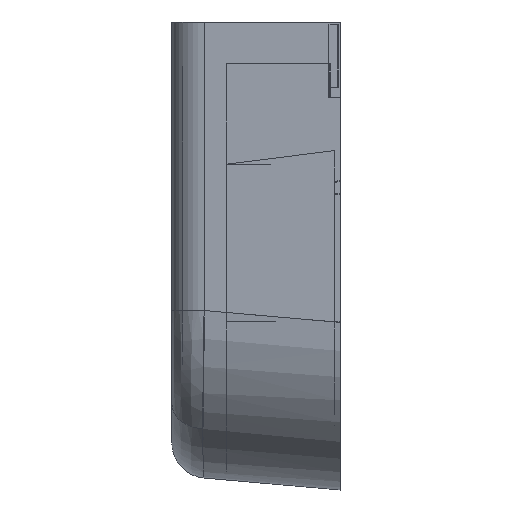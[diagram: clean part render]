
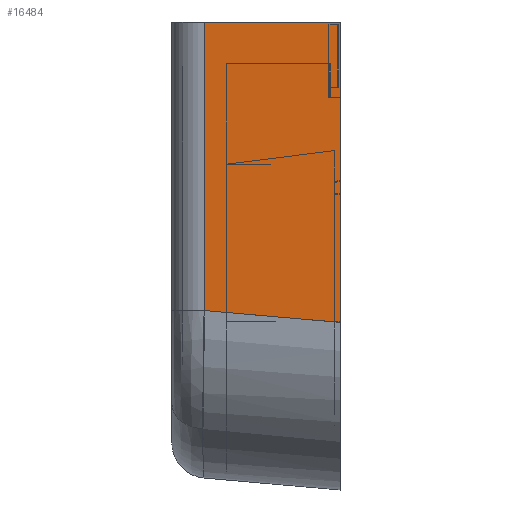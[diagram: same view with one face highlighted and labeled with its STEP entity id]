
A CAD part, left-side view. The second image highlights one B-rep face of the part: STEP entity #16484.
In plain terms, the highlighted planar face has unit normal (-0.996, 0.087, 0).
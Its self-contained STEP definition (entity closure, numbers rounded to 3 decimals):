
#336 = LINE ( 'NONE', #525, #16951 ) ;
#525 = CARTESIAN_POINT ( 'NONE',  ( -0.466, -5.322, -128.702 ) ) ;
#2823 = EDGE_CURVE ( 'NONE', #18818, #33845, #23852, .T. ) ;
#3293 = AXIS2_PLACEMENT_3D ( 'NONE', #14347, #5798, #25487 ) ;
#4161 = CARTESIAN_POINT ( 'NONE',  ( 0., 0., -190. ) ) ;
#4388 = ORIENTED_EDGE ( 'NONE', *, *, #15562, .T. ) ;
#5798 = DIRECTION ( 'NONE',  ( -0.996, 0.087, 0. ) ) ;
#8358 = PLANE ( 'NONE',  #3293 ) ;
#8461 = ORIENTED_EDGE ( 'NONE', *, *, #10285, .T. ) ;
#9256 = DIRECTION ( 'NONE',  ( 0., 0., 1. ) ) ;
#9306 = DIRECTION ( 'NONE',  ( 0.087, 0.996, 0. ) ) ;
#9990 = DIRECTION ( 'NONE',  ( 0., 0., -1. ) ) ;
#10285 = EDGE_CURVE ( 'NONE', #35623, #18818, #18067, .T. ) ;
#12009 = DIRECTION ( 'NONE',  ( -0.087, -0.992, -0.087 ) ) ;
#12171 = EDGE_CURVE ( 'NONE', #33845, #25616, #336, .T. ) ;
#14016 = ORIENTED_EDGE ( 'NONE', *, *, #2823, .T. ) ;
#14347 = CARTESIAN_POINT ( 'NONE',  ( 0., 0., -190. ) ) ;
#15562 = EDGE_CURVE ( 'NONE', #25616, #35623, #17269, .T. ) ;
#16349 = CARTESIAN_POINT ( 'NONE',  ( 4.386, 50.133, -17.5 ) ) ;
#16484 = ADVANCED_FACE ( 'NONE', ( #19286 ), #8358, .T. ) ;
#16633 = CARTESIAN_POINT ( 'NONE',  ( 4.386, 50.133, -123.85 ) ) ;
#16951 = VECTOR ( 'NONE', #12009, 1000. ) ;
#17269 = LINE ( 'NONE', #4161, #24798 ) ;
#18067 = LINE ( 'NONE', #18729, #26615 ) ;
#18729 = CARTESIAN_POINT ( 'NONE',  ( 0., 0., -17.5 ) ) ;
#18818 = VERTEX_POINT ( 'NONE', #16349 ) ;
#19286 = FACE_OUTER_BOUND ( 'NONE', #30480, .T. ) ;
#23515 = CARTESIAN_POINT ( 'NONE',  ( 0., 0., -17.5 ) ) ;
#23635 = VECTOR ( 'NONE', #9990, 1000. ) ;
#23852 = LINE ( 'NONE', #34974, #23635 ) ;
#24798 = VECTOR ( 'NONE', #9256, 1000. ) ;
#25487 = DIRECTION ( 'NONE',  ( -0.087, -0.996, 0. ) ) ;
#25616 = VERTEX_POINT ( 'NONE', #33742 ) ;
#26615 = VECTOR ( 'NONE', #9306, 1000. ) ;
#30480 = EDGE_LOOP ( 'NONE', ( #8461, #14016, #35350, #4388 ) ) ;
#33742 = CARTESIAN_POINT ( 'NONE',  ( 0., 0., -128.236 ) ) ;
#33845 = VERTEX_POINT ( 'NONE', #16633 ) ;
#34974 = CARTESIAN_POINT ( 'NONE',  ( 4.386, 50.133, -122.812 ) ) ;
#35350 = ORIENTED_EDGE ( 'NONE', *, *, #12171, .T. ) ;
#35623 = VERTEX_POINT ( 'NONE', #23515 ) ;
